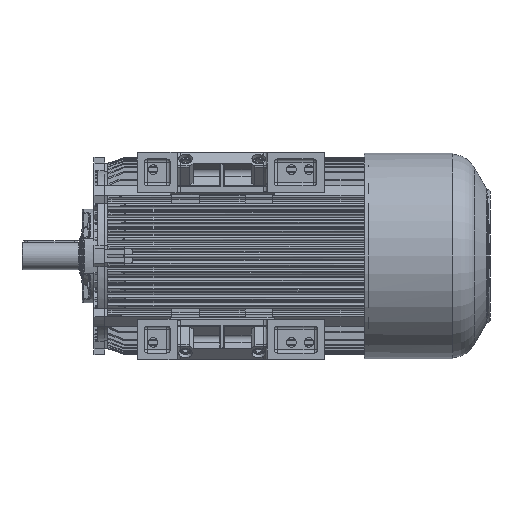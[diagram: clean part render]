
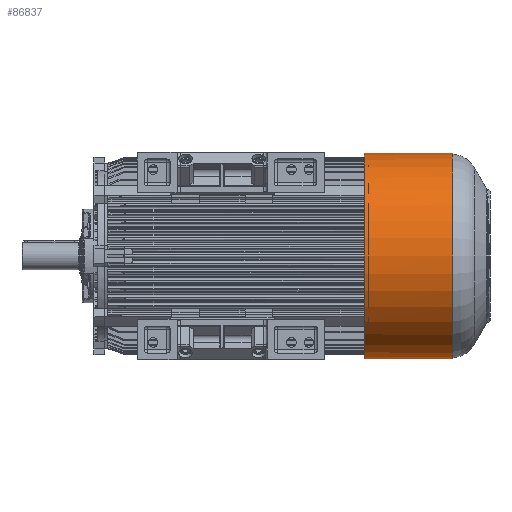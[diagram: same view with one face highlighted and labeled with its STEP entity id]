
A CAD part, front view. The second image highlights one B-rep face of the part: STEP entity #86837.
In plain terms, the highlighted cylindrical face has radius 302.496 mm (diameter 604.992 mm), a full revolution.
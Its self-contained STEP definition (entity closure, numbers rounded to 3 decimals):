
#1327=CYLINDRICAL_SURFACE('',#91861,302.496);
#2791=B_SPLINE_CURVE_WITH_KNOTS('',3,(#119531,#119532,#119533,#119534,#119535,
#119536,#119537,#119538,#119539,#119540,#119541,#119542,#119543,#119544,
#119545,#119546,#119547,#119548,#119549,#119550,#119551,#119552,#119553,
#119554,#119555,#119556,#119557,#119558,#119559),.UNSPECIFIED.,.F.,.F.,
(4,1,1,1,1,1,1,1,1,1,1,1,1,1,1,1,1,1,1,1,1,1,1,1,1,1,4),(0.,0.01,
0.015,0.02,0.03,0.04,
0.05,0.055,0.06,0.065,
0.07,0.075,0.08,0.085,
0.09,0.095,0.1,0.105,
0.11,0.12,0.125,0.13,
0.135,0.14,0.145,0.15,
0.16),.UNSPECIFIED.);
#5791=LINE('',#128433,#10105);
#5792=LINE('',#128435,#10106);
#10105=VECTOR('',#103427,1000.);
#10106=VECTOR('',#103430,1000.);
#19274=ORIENTED_EDGE('',*,*,#34045,.T.);
#19275=ORIENTED_EDGE('',*,*,#34041,.F.);
#19276=ORIENTED_EDGE('',*,*,#34034,.F.);
#19277=ORIENTED_EDGE('',*,*,#31907,.T.);
#19278=ORIENTED_EDGE('',*,*,#34033,.F.);
#19279=ORIENTED_EDGE('',*,*,#34040,.F.);
#19280=ORIENTED_EDGE('',*,*,#34052,.F.);
#31907=EDGE_CURVE('',#40501,#40499,#2791,.T.);
#34033=EDGE_CURVE('',#41905,#40499,#46464,.T.);
#34034=EDGE_CURVE('',#40501,#41906,#46465,.T.);
#34040=EDGE_CURVE('',#41910,#41905,#5791,.F.);
#34041=EDGE_CURVE('',#41906,#41911,#5792,.T.);
#34045=EDGE_CURVE('',#41914,#41914,#46468,.T.);
#34052=EDGE_CURVE('',#41911,#41910,#46475,.T.);
#40499=VERTEX_POINT('',#119529);
#40501=VERTEX_POINT('',#119560);
#41905=VERTEX_POINT('',#128420);
#41906=VERTEX_POINT('',#128422);
#41910=VERTEX_POINT('',#128432);
#41911=VERTEX_POINT('',#128436);
#41914=VERTEX_POINT('',#128444);
#46464=CIRCLE('',#91838,302.496);
#46465=CIRCLE('',#91839,302.496);
#46468=CIRCLE('',#91845,302.496);
#46475=CIRCLE('',#91860,302.496);
#50146=EDGE_LOOP('',(#19274));
#50147=EDGE_LOOP('',(#19275,#19276,#19277,#19278,#19279,#19280));
#54483=FACE_BOUND('',#50146,.T.);
#54484=FACE_BOUND('',#50147,.T.);
#86837=ADVANCED_FACE('',(#54483,#54484),#1327,.T.);
#91838=AXIS2_PLACEMENT_3D('',#128419,#103415,#103416);
#91839=AXIS2_PLACEMENT_3D('',#128421,#103417,#103418);
#91845=AXIS2_PLACEMENT_3D('',#128443,#103437,#103438);
#91860=AXIS2_PLACEMENT_3D('',#128464,#103467,#103468);
#91861=AXIS2_PLACEMENT_3D('',#128465,#103469,#103470);
#103415=DIRECTION('',(-1.,0.,0.));
#103416=DIRECTION('',(0.,0.,1.));
#103417=DIRECTION('',(-1.,0.,0.));
#103418=DIRECTION('',(0.,0.,1.));
#103427=DIRECTION('',(-1.,0.,0.));
#103430=DIRECTION('',(-1.,0.,0.));
#103437=DIRECTION('',(-1.,0.,0.));
#103438=DIRECTION('',(0.,1.,0.));
#103467=DIRECTION('',(-1.,0.,0.));
#103468=DIRECTION('',(0.,1.,0.));
#103469=DIRECTION('',(-1.,0.,0.));
#103470=DIRECTION('',(0.,1.,0.));
#119529=CARTESIAN_POINT('',(758.824,297.83,52.926));
#119531=CARTESIAN_POINT('',(758.824,297.83,-52.926));
#119532=CARTESIAN_POINT('',(762.21,297.862,-52.747));
#119533=CARTESIAN_POINT('',(767.182,297.995,-51.998));
#119534=CARTESIAN_POINT('',(773.594,298.322,-50.088));
#119535=CARTESIAN_POINT('',(779.88,298.743,-47.536));
#119536=CARTESIAN_POINT('',(787.068,299.394,-43.347));
#119537=CARTESIAN_POINT('',(794.742,300.297,-36.654));
#119538=CARTESIAN_POINT('',(799.863,301.018,-30.112));
#119539=CARTESIAN_POINT('',(803.244,301.535,-24.241));
#119540=CARTESIAN_POINT('',(805.321,301.868,-19.67));
#119541=CARTESIAN_POINT('',(806.955,302.14,-14.941));
#119542=CARTESIAN_POINT('',(808.145,302.343,-10.038));
#119543=CARTESIAN_POINT('',(808.866,302.469,-5.004));
#119544=CARTESIAN_POINT('',(809.1,302.51,0.004));
#119545=CARTESIAN_POINT('',(808.865,302.469,5.015));
#119546=CARTESIAN_POINT('',(808.142,302.343,10.055));
#119547=CARTESIAN_POINT('',(806.952,302.139,14.949));
#119548=CARTESIAN_POINT('',(805.317,301.867,19.681));
#119549=CARTESIAN_POINT('',(803.232,301.533,24.266));
#119550=CARTESIAN_POINT('',(799.853,301.016,30.125));
#119551=CARTESIAN_POINT('',(795.758,300.44,35.352));
#119552=CARTESIAN_POINT('',(790.878,299.842,40.033));
#119553=CARTESIAN_POINT('',(786.937,299.408,43.146));
#119554=CARTESIAN_POINT('',(782.743,299.003,45.862));
#119555=CARTESIAN_POINT('',(778.287,298.636,48.185));
#119556=CARTESIAN_POINT('',(773.575,298.321,50.094));
#119557=CARTESIAN_POINT('',(767.179,297.995,51.999));
#119558=CARTESIAN_POINT('',(762.211,297.862,52.747));
#119559=CARTESIAN_POINT('',(758.824,297.83,52.926));
#119560=CARTESIAN_POINT('',(758.824,297.83,-52.926));
#128419=CARTESIAN_POINT('',(758.824,0.,0.));
#128420=CARTESIAN_POINT('',(758.824,296.486,60.));
#128421=CARTESIAN_POINT('',(758.824,0.,0.));
#128422=CARTESIAN_POINT('',(758.824,296.486,-60.));
#128432=CARTESIAN_POINT('',(746.49,296.486,60.));
#128433=CARTESIAN_POINT('',(686.49,296.486,60.));
#128435=CARTESIAN_POINT('',(686.49,296.486,-60.));
#128436=CARTESIAN_POINT('',(746.49,296.486,-60.));
#128443=CARTESIAN_POINT('',(1006.49,0.,0.));
#128444=CARTESIAN_POINT('',(1006.49,302.496,0.));
#128464=CARTESIAN_POINT('',(746.49,0.,0.));
#128465=CARTESIAN_POINT('',(686.49,0.,0.));
